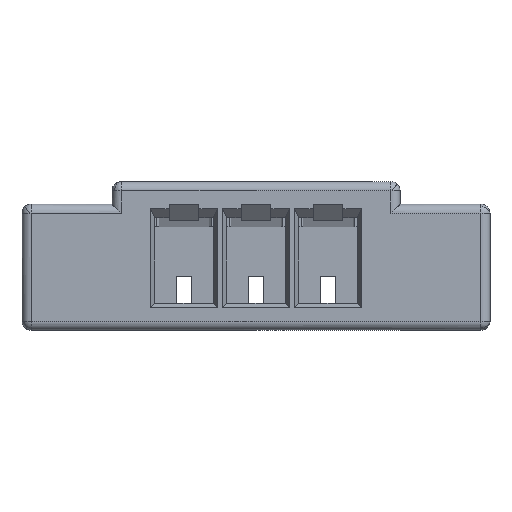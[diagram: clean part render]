
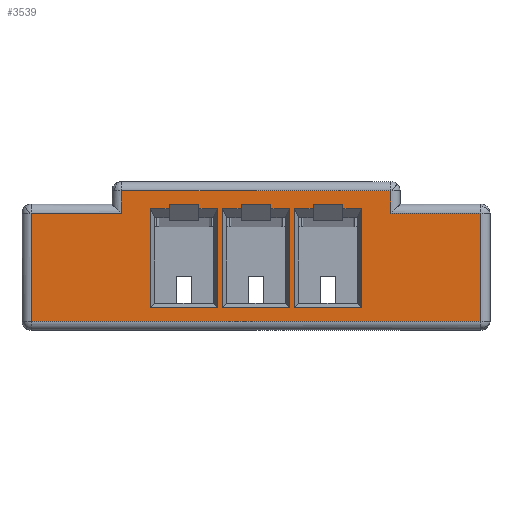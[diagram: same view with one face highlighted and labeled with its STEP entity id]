
A CAD part, left-side view. The second image highlights one B-rep face of the part: STEP entity #3539.
In plain terms, the highlighted planar face has unit normal (-1, 0, 0).
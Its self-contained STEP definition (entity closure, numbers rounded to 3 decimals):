
#63=DIRECTION('',(0.,0.,-1.));
#64=VECTOR('',#63,1.2);
#65=CARTESIAN_POINT('',(0.,-7.7,0.475));
#66=LINE('',#65,#64);
#75=DIRECTION('',(0.,1.,0.));
#76=VECTOR('',#75,5.);
#77=CARTESIAN_POINT('',(0.,-7.7,-0.725));
#78=LINE('',#77,#76);
#162=DIRECTION('',(0.,0.,-1.));
#163=VECTOR('',#162,0.25);
#164=CARTESIAN_POINT('',(0.,-6.7,0.725));
#165=LINE('',#164,#163);
#175=CARTESIAN_POINT('',(0.,-6.7,0.475));
#181=DIRECTION('',(0.,-1.,0.));
#182=VECTOR('',#181,1.);
#183=CARTESIAN_POINT('',(0.,-6.7,0.475));
#184=LINE('',#183,#182);
#210=DIRECTION('',(0.,-1.,0.));
#211=VECTOR('',#210,3.);
#212=CARTESIAN_POINT('',(0.,-3.7,0.725));
#213=LINE('',#212,#211);
#268=DIRECTION('',(0.,0.,1.));
#269=VECTOR('',#268,0.25);
#270=CARTESIAN_POINT('',(0.,-3.7,0.475));
#271=LINE('',#270,#269);
#283=DIRECTION('',(0.,-1.,0.));
#284=VECTOR('',#283,1.);
#285=CARTESIAN_POINT('',(0.,-2.7,0.475));
#286=LINE('',#285,#284);
#316=DIRECTION('',(0.,0.,1.));
#317=VECTOR('',#316,1.2);
#318=CARTESIAN_POINT('',(0.,-2.7,-0.725));
#319=LINE('',#318,#317);
#598=DIRECTION('',(0.,1.,0.));
#599=VECTOR('',#598,0.21);
#600=CARTESIAN_POINT('',(0.,-4.235,0.525));
#601=LINE('',#600,#599);
#610=DIRECTION('',(0.,0.,-1.));
#611=VECTOR('',#610,0.05);
#612=CARTESIAN_POINT('',(0.,-4.235,0.575));
#613=LINE('',#612,#611);
#630=DIRECTION('',(0.,1.,0.));
#631=VECTOR('',#630,0.33);
#632=CARTESIAN_POINT('',(0.,-4.565,0.575));
#633=LINE('',#632,#631);
#654=DIRECTION('',(0.,0.,1.));
#655=VECTOR('',#654,0.05);
#656=CARTESIAN_POINT('',(0.,-4.565,0.525));
#657=LINE('',#656,#655);
#658=DIRECTION('',(0.,1.,0.));
#659=VECTOR('',#658,0.21);
#660=CARTESIAN_POINT('',(0.,-4.775,0.525));
#661=LINE('',#660,#659);
#670=DIRECTION('',(0.,0.,1.));
#671=VECTOR('',#670,1.1);
#672=CARTESIAN_POINT('',(0.,-4.775,-0.575));
#673=LINE('',#672,#671);
#925=DIRECTION('',(0.,0.,1.));
#926=VECTOR('',#925,1.1);
#927=CARTESIAN_POINT('',(0.,-5.575,-0.575));
#928=LINE('',#927,#926);
#929=DIRECTION('',(0.,1.,0.));
#930=VECTOR('',#929,0.21);
#931=CARTESIAN_POINT('',(0.,-5.575,0.525));
#932=LINE('',#931,#930);
#957=DIRECTION('',(0.,0.,1.));
#958=VECTOR('',#957,0.05);
#959=CARTESIAN_POINT('',(0.,-5.365,0.525));
#960=LINE('',#959,#958);
#969=DIRECTION('',(0.,0.,-1.));
#970=VECTOR('',#969,0.05);
#971=CARTESIAN_POINT('',(0.,-5.035,0.575));
#972=LINE('',#971,#970);
#985=DIRECTION('',(0.,1.,0.));
#986=VECTOR('',#985,0.21);
#987=CARTESIAN_POINT('',(0.,-5.035,0.525));
#988=LINE('',#987,#986);
#993=DIRECTION('',(0.,0.,-1.));
#994=VECTOR('',#993,1.1);
#995=CARTESIAN_POINT('',(0.,-4.825,0.525));
#996=LINE('',#995,#994);
#1013=DIRECTION('',(0.,-1.,0.));
#1014=VECTOR('',#1013,0.75);
#1015=CARTESIAN_POINT('',(0.,-4.825,-0.575));
#1016=LINE('',#1015,#1014);
#2046=DIRECTION('',(0.,-1.,0.));
#2047=VECTOR('',#2046,0.75);
#2048=CARTESIAN_POINT('',(0.,-5.625,-0.575));
#2049=LINE('',#2048,#2047);
#2062=DIRECTION('',(0.,0.,1.));
#2063=VECTOR('',#2062,1.1);
#2064=CARTESIAN_POINT('',(0.,-6.375,-0.575));
#2065=LINE('',#2064,#2063);
#2066=DIRECTION('',(0.,1.,0.));
#2067=VECTOR('',#2066,0.21);
#2068=CARTESIAN_POINT('',(0.,-6.375,0.525));
#2069=LINE('',#2068,#2067);
#2094=DIRECTION('',(0.,0.,1.));
#2095=VECTOR('',#2094,0.05);
#2096=CARTESIAN_POINT('',(0.,-6.165,0.525));
#2097=LINE('',#2096,#2095);
#2115=DIRECTION('',(0.,0.,-1.));
#2116=VECTOR('',#2115,0.05);
#2117=CARTESIAN_POINT('',(0.,-5.835,0.575));
#2118=LINE('',#2117,#2116);
#2131=DIRECTION('',(0.,1.,0.));
#2132=VECTOR('',#2131,0.21);
#2133=CARTESIAN_POINT('',(0.,-5.835,0.525));
#2134=LINE('',#2133,#2132);
#2139=DIRECTION('',(0.,0.,-1.));
#2140=VECTOR('',#2139,1.1);
#2141=CARTESIAN_POINT('',(0.,-5.625,0.525));
#2142=LINE('',#2141,#2140);
#2159=DIRECTION('',(0.,1.,0.));
#2160=VECTOR('',#2159,0.33);
#2161=CARTESIAN_POINT('',(0.,-6.165,0.575));
#2162=LINE('',#2161,#2160);
#2351=DIRECTION('',(0.,-1.,0.));
#2352=VECTOR('',#2351,0.75);
#2353=CARTESIAN_POINT('',(0.,-4.025,-0.575));
#2354=LINE('',#2353,#2352);
#2359=DIRECTION('',(0.,0.,-1.));
#2360=VECTOR('',#2359,1.1);
#2361=CARTESIAN_POINT('',(0.,-4.025,0.525));
#2362=LINE('',#2361,#2360);
#2483=DIRECTION('',(0.,1.,0.));
#2484=VECTOR('',#2483,0.33);
#2485=CARTESIAN_POINT('',(0.,-5.365,0.575));
#2486=LINE('',#2485,#2484);
#2622=CARTESIAN_POINT('',(0.,-7.7,0.475));
#2624=VERTEX_POINT('',#2622);
#2625=CARTESIAN_POINT('',(0.,-7.7,-0.725));
#2626=VERTEX_POINT('',#2625);
#2662=CARTESIAN_POINT('',(0.,-2.7,-0.725));
#2663=VERTEX_POINT('',#2662);
#2678=VERTEX_POINT('',#175);
#2679=CARTESIAN_POINT('',(0.,-6.7,0.725));
#2680=VERTEX_POINT('',#2679);
#2683=CARTESIAN_POINT('',(0.,-6.375,0.525));
#2684=CARTESIAN_POINT('',(0.,-6.165,0.525));
#2685=VERTEX_POINT('',#2683);
#2686=VERTEX_POINT('',#2684);
#2703=CARTESIAN_POINT('',(0.,-5.835,0.575));
#2704=CARTESIAN_POINT('',(0.,-5.835,0.525));
#2705=VERTEX_POINT('',#2703);
#2706=VERTEX_POINT('',#2704);
#2741=CARTESIAN_POINT('',(0.,-2.7,0.475));
#2742=VERTEX_POINT('',#2741);
#2743=CARTESIAN_POINT('',(0.,-3.7,0.475));
#2744=VERTEX_POINT('',#2743);
#2745=CARTESIAN_POINT('',(0.,-3.7,0.725));
#2746=VERTEX_POINT('',#2745);
#2747=CARTESIAN_POINT('',(0.,-5.625,0.525));
#2748=CARTESIAN_POINT('',(0.,-5.625,-0.575));
#2749=VERTEX_POINT('',#2747);
#2750=VERTEX_POINT('',#2748);
#2751=CARTESIAN_POINT('',(0.,-6.375,-0.575));
#2752=VERTEX_POINT('',#2751);
#2753=CARTESIAN_POINT('',(0.,-6.165,0.575));
#2754=VERTEX_POINT('',#2753);
#2755=CARTESIAN_POINT('',(0.,-4.025,0.525));
#2756=CARTESIAN_POINT('',(0.,-4.025,-0.575));
#2757=VERTEX_POINT('',#2755);
#2758=VERTEX_POINT('',#2756);
#2759=CARTESIAN_POINT('',(0.,-4.775,-0.575));
#2760=VERTEX_POINT('',#2759);
#2761=CARTESIAN_POINT('',(0.,-4.775,0.525));
#2762=VERTEX_POINT('',#2761);
#2763=CARTESIAN_POINT('',(0.,-4.565,0.525));
#2764=VERTEX_POINT('',#2763);
#2765=CARTESIAN_POINT('',(0.,-4.565,0.575));
#2766=VERTEX_POINT('',#2765);
#2767=CARTESIAN_POINT('',(0.,-4.235,0.575));
#2768=VERTEX_POINT('',#2767);
#2769=CARTESIAN_POINT('',(0.,-4.235,0.525));
#2770=VERTEX_POINT('',#2769);
#2771=CARTESIAN_POINT('',(0.,-5.365,0.525));
#2772=CARTESIAN_POINT('',(0.,-5.365,0.575));
#2773=VERTEX_POINT('',#2771);
#2774=VERTEX_POINT('',#2772);
#2775=CARTESIAN_POINT('',(0.,-5.035,0.575));
#2776=VERTEX_POINT('',#2775);
#2777=CARTESIAN_POINT('',(0.,-5.035,0.525));
#2778=VERTEX_POINT('',#2777);
#2779=CARTESIAN_POINT('',(0.,-4.825,0.525));
#2780=VERTEX_POINT('',#2779);
#2781=CARTESIAN_POINT('',(0.,-4.825,-0.575));
#2782=VERTEX_POINT('',#2781);
#2783=CARTESIAN_POINT('',(0.,-5.575,-0.575));
#2784=VERTEX_POINT('',#2783);
#2785=CARTESIAN_POINT('',(0.,-5.575,0.525));
#2786=VERTEX_POINT('',#2785);
#3463=CARTESIAN_POINT('',(0.,-6.4,0.));
#3464=DIRECTION('',(1.,0.,0.));
#3465=DIRECTION('',(0.,0.,1.));
#3466=AXIS2_PLACEMENT_3D('',#3463,#3464,#3465);
#3467=PLANE('',#3466);
#3469=ORIENTED_EDGE('',*,*,#3468,.T.);
#3471=ORIENTED_EDGE('',*,*,#3470,.T.);
#3473=ORIENTED_EDGE('',*,*,#3472,.T.);
#3475=ORIENTED_EDGE('',*,*,#3474,.T.);
#3477=ORIENTED_EDGE('',*,*,#3476,.T.);
#3479=ORIENTED_EDGE('',*,*,#3478,.T.);
#3481=ORIENTED_EDGE('',*,*,#3480,.T.);
#3482=ORIENTED_EDGE('',*,*,#3454,.T.);
#3483=EDGE_LOOP('',(#3469,#3471,#3473,#3475,#3477,#3479,#3481,#3482));
#3484=FACE_OUTER_BOUND('',#3483,.F.);
#3486=ORIENTED_EDGE('',*,*,#3485,.T.);
#3488=ORIENTED_EDGE('',*,*,#3487,.T.);
#3490=ORIENTED_EDGE('',*,*,#3489,.T.);
#3492=ORIENTED_EDGE('',*,*,#3491,.T.);
#3494=ORIENTED_EDGE('',*,*,#3493,.T.);
#3496=ORIENTED_EDGE('',*,*,#3495,.T.);
#3498=ORIENTED_EDGE('',*,*,#3497,.T.);
#3500=ORIENTED_EDGE('',*,*,#3499,.T.);
#3501=EDGE_LOOP('',(#3486,#3488,#3490,#3492,#3494,#3496,#3498,#3500));
#3502=FACE_BOUND('',#3501,.F.);
#3504=ORIENTED_EDGE('',*,*,#3503,.T.);
#3506=ORIENTED_EDGE('',*,*,#3505,.T.);
#3508=ORIENTED_EDGE('',*,*,#3507,.T.);
#3510=ORIENTED_EDGE('',*,*,#3509,.T.);
#3512=ORIENTED_EDGE('',*,*,#3511,.T.);
#3514=ORIENTED_EDGE('',*,*,#3513,.T.);
#3516=ORIENTED_EDGE('',*,*,#3515,.T.);
#3518=ORIENTED_EDGE('',*,*,#3517,.T.);
#3519=EDGE_LOOP('',(#3504,#3506,#3508,#3510,#3512,#3514,#3516,#3518));
#3520=FACE_BOUND('',#3519,.F.);
#3522=ORIENTED_EDGE('',*,*,#3521,.T.);
#3524=ORIENTED_EDGE('',*,*,#3523,.T.);
#3526=ORIENTED_EDGE('',*,*,#3525,.T.);
#3528=ORIENTED_EDGE('',*,*,#3527,.T.);
#3530=ORIENTED_EDGE('',*,*,#3529,.T.);
#3532=ORIENTED_EDGE('',*,*,#3531,.T.);
#3534=ORIENTED_EDGE('',*,*,#3533,.T.);
#3536=ORIENTED_EDGE('',*,*,#3535,.T.);
#3537=EDGE_LOOP('',(#3522,#3524,#3526,#3528,#3530,#3532,#3534,#3536));
#3538=FACE_BOUND('',#3537,.F.);
#3539=ADVANCED_FACE('',(#3484,#3502,#3520,#3538),#3467,.F.);
#3454=EDGE_CURVE('',#2624,#2626,#66,.T.);
#3468=EDGE_CURVE('',#2626,#2663,#78,.T.);
#3470=EDGE_CURVE('',#2663,#2742,#319,.T.);
#3472=EDGE_CURVE('',#2742,#2744,#286,.T.);
#3474=EDGE_CURVE('',#2744,#2746,#271,.T.);
#3476=EDGE_CURVE('',#2746,#2680,#213,.T.);
#3478=EDGE_CURVE('',#2680,#2678,#165,.T.);
#3480=EDGE_CURVE('',#2678,#2624,#184,.T.);
#3485=EDGE_CURVE('',#2706,#2749,#2134,.T.);
#3487=EDGE_CURVE('',#2749,#2750,#2142,.T.);
#3489=EDGE_CURVE('',#2750,#2752,#2049,.T.);
#3491=EDGE_CURVE('',#2752,#2685,#2065,.T.);
#3493=EDGE_CURVE('',#2685,#2686,#2069,.T.);
#3495=EDGE_CURVE('',#2686,#2754,#2097,.T.);
#3497=EDGE_CURVE('',#2754,#2705,#2162,.T.);
#3499=EDGE_CURVE('',#2705,#2706,#2118,.T.);
#3503=EDGE_CURVE('',#2770,#2757,#601,.T.);
#3505=EDGE_CURVE('',#2757,#2758,#2362,.T.);
#3507=EDGE_CURVE('',#2758,#2760,#2354,.T.);
#3509=EDGE_CURVE('',#2760,#2762,#673,.T.);
#3511=EDGE_CURVE('',#2762,#2764,#661,.T.);
#3513=EDGE_CURVE('',#2764,#2766,#657,.T.);
#3515=EDGE_CURVE('',#2766,#2768,#633,.T.);
#3517=EDGE_CURVE('',#2768,#2770,#613,.T.);
#3521=EDGE_CURVE('',#2786,#2773,#932,.T.);
#3523=EDGE_CURVE('',#2773,#2774,#960,.T.);
#3525=EDGE_CURVE('',#2774,#2776,#2486,.T.);
#3527=EDGE_CURVE('',#2776,#2778,#972,.T.);
#3529=EDGE_CURVE('',#2778,#2780,#988,.T.);
#3531=EDGE_CURVE('',#2780,#2782,#996,.T.);
#3533=EDGE_CURVE('',#2782,#2784,#1016,.T.);
#3535=EDGE_CURVE('',#2784,#2786,#928,.T.);
